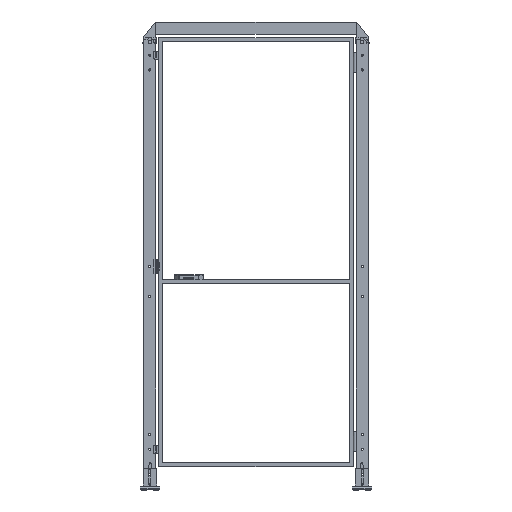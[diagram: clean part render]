
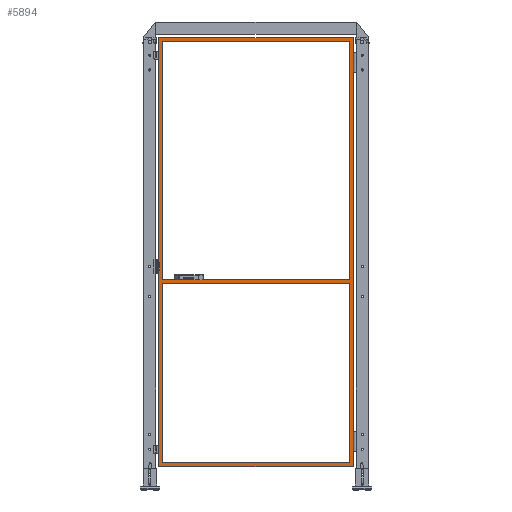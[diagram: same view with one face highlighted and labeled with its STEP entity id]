
A CAD part, top view. The second image highlights one B-rep face of the part: STEP entity #5894.
In plain terms, the highlighted planar face has unit normal (0, 0, 1).
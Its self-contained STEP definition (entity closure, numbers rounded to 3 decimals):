
#5894=ADVANCED_FACE('',(#12068,#12069,#12070),#12071,.F.);
#12068=FACE_BOUND('',#19807,.T.);
#12069=FACE_OUTER_BOUND('',#19808,.T.);
#12070=FACE_BOUND('',#19809,.T.);
#12071=PLANE('',#19810);
#19807=EDGE_LOOP('',(#37257,#37258,#37259,#37260));
#19808=EDGE_LOOP('',(#37261,#37262,#37263,#37264));
#19809=EDGE_LOOP('',(#37265,#37266,#37267,#37268));
#19810=AXIS2_PLACEMENT_3D('',#37269,#37270,#37271);
#37257=ORIENTED_EDGE('',*,*,#44399,.F.);
#37258=ORIENTED_EDGE('',*,*,#44405,.T.);
#37259=ORIENTED_EDGE('',*,*,#44427,.T.);
#37260=ORIENTED_EDGE('',*,*,#44432,.F.);
#37261=ORIENTED_EDGE('',*,*,#44443,.F.);
#37262=ORIENTED_EDGE('',*,*,#44437,.F.);
#37263=ORIENTED_EDGE('',*,*,#44407,.F.);
#37264=ORIENTED_EDGE('',*,*,#44441,.F.);
#37265=ORIENTED_EDGE('',*,*,#44429,.F.);
#37266=ORIENTED_EDGE('',*,*,#44424,.F.);
#37267=ORIENTED_EDGE('',*,*,#44435,.T.);
#37268=ORIENTED_EDGE('',*,*,#44444,.T.);
#37269=CARTESIAN_POINT('',(515.0,130.0,10.0));
#37270=DIRECTION('',(0.,0.0,-1.0));
#37271=DIRECTION('',(-1.0,0.0,0.));
#44399=EDGE_CURVE('',#54881,#54884,#54885,.T.);
#44405=EDGE_CURVE('',#54881,#54892,#54894,.T.);
#44407=EDGE_CURVE('',#54896,#54897,#54898,.T.);
#44424=EDGE_CURVE('',#54924,#54922,#54926,.T.);
#44427=EDGE_CURVE('',#54892,#54928,#54930,.T.);
#44429=EDGE_CURVE('',#54922,#54932,#54933,.T.);
#44432=EDGE_CURVE('',#54884,#54928,#54936,.T.);
#44435=EDGE_CURVE('',#54924,#54938,#54940,.T.);
#44437=EDGE_CURVE('',#54897,#54942,#54943,.T.);
#44441=EDGE_CURVE('',#54946,#54896,#54948,.T.);
#44443=EDGE_CURVE('',#54942,#54946,#54950,.T.);
#44444=EDGE_CURVE('',#54938,#54932,#54951,.T.);
#54881=VERTEX_POINT('',#70715);
#54884=VERTEX_POINT('',#70719);
#54885=LINE('',#70720,#70721);
#54892=VERTEX_POINT('',#70731);
#54894=LINE('',#70734,#70735);
#54896=VERTEX_POINT('',#70737);
#54897=VERTEX_POINT('',#70738);
#54898=LINE('',#70739,#70740);
#54922=VERTEX_POINT('',#70776);
#54924=VERTEX_POINT('',#70779);
#54926=LINE('',#70782,#70783);
#54928=VERTEX_POINT('',#70785);
#54930=LINE('',#70788,#70789);
#54932=VERTEX_POINT('',#70791);
#54933=LINE('',#70792,#70793);
#54936=LINE('',#70797,#70798);
#54938=VERTEX_POINT('',#70800);
#54940=LINE('',#70803,#70804);
#54942=VERTEX_POINT('',#70806);
#54943=LINE('',#70807,#70808);
#54946=VERTEX_POINT('',#70812);
#54948=LINE('',#70815,#70816);
#54950=LINE('',#70818,#70819);
#54951=LINE('',#70820,#70821);
#70715=CARTESIAN_POINT('',(995.0,2300.0,10.));
#70719=CARTESIAN_POINT('',(35.,2300.0,10.0));
#70720=CARTESIAN_POINT('',(515.0,2300.0,10.0));
#70721=VECTOR('',#78397,1.0);
#70731=CARTESIAN_POINT('',(995.0,1080.0,10.));
#70734=CARTESIAN_POINT('',(995.0,1220.0,10.));
#70735=VECTOR('',#78402,1.0);
#70737=CARTESIAN_POINT('',(15.0,120.0,10.0));
#70738=CARTESIAN_POINT('',(15.,2320.0,10.0));
#70739=CARTESIAN_POINT('',(15.0,130.0,10.0));
#70740=VECTOR('',#78403,1.0);
#70776=CARTESIAN_POINT('',(35.,1060.0,10.0));
#70779=CARTESIAN_POINT('',(995.0,1060.0,10.));
#70782=CARTESIAN_POINT('',(515.0,1060.0,10.0));
#70783=VECTOR('',#78418,1.0);
#70785=CARTESIAN_POINT('',(35.,1080.0,10.0));
#70788=CARTESIAN_POINT('',(515.0,1080.0,10.0));
#70789=VECTOR('',#78420,1.0);
#70791=CARTESIAN_POINT('',(35.0,140.0,10.0));
#70792=CARTESIAN_POINT('',(35.,1220.0,10.0));
#70793=VECTOR('',#78421,1.0);
#70797=CARTESIAN_POINT('',(35.,1220.0,10.0));
#70798=VECTOR('',#78423,1.0);
#70800=CARTESIAN_POINT('',(995.0,140.0,10.));
#70803=CARTESIAN_POINT('',(995.0,1220.0,10.));
#70804=VECTOR('',#78425,1.0);
#70806=CARTESIAN_POINT('',(1015.0,2320.0,10.));
#70807=CARTESIAN_POINT('',(25.,2320.0,10.0));
#70808=VECTOR('',#78426,1.0);
#70812=CARTESIAN_POINT('',(1015.0,120.0,10.));
#70815=CARTESIAN_POINT('',(515.0,120.0,10.0));
#70816=VECTOR('',#78429,1.0);
#70818=CARTESIAN_POINT('',(1015.0,1220.0,10.));
#70819=VECTOR('',#78430,1.0);
#70820=CARTESIAN_POINT('',(515.0,140.0,10.0));
#70821=VECTOR('',#78431,1.0);
#78397=DIRECTION('',(-1.0,0.0,0.));
#78402=DIRECTION('',(0.,-1.0,0.));
#78403=DIRECTION('',(0.0,1.0,0.0));
#78418=DIRECTION('',(-1.0,0.0,0.));
#78420=DIRECTION('',(-1.0,0.0,0.));
#78421=DIRECTION('',(0.,-1.0,0.));
#78423=DIRECTION('',(0.,-1.0,0.));
#78425=DIRECTION('',(0.,-1.0,0.));
#78426=DIRECTION('',(1.0,0.,0.));
#78429=DIRECTION('',(-1.0,0.0,0.));
#78430=DIRECTION('',(0.,-1.0,0.));
#78431=DIRECTION('',(-1.0,0.0,0.));
